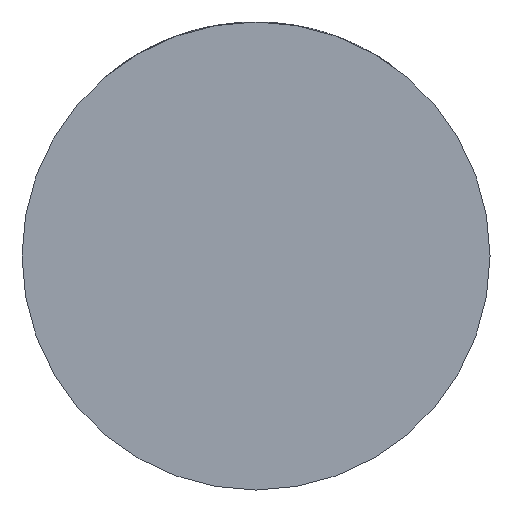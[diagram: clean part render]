
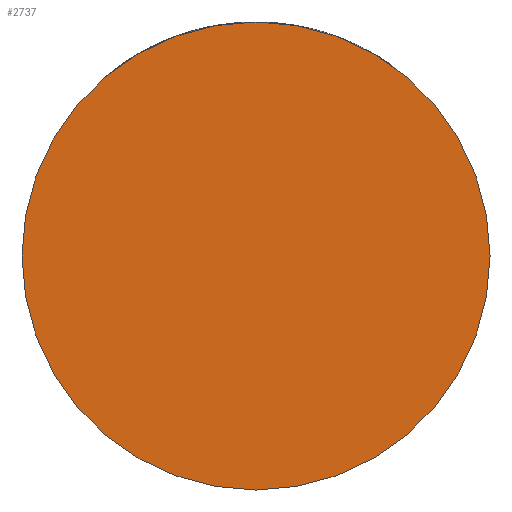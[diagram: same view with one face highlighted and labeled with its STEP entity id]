
A CAD part, front view. The second image highlights one B-rep face of the part: STEP entity #2737.
In plain terms, the highlighted planar face has unit normal (0, -1, 0).
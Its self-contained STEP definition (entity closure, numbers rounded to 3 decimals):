
#89 = DIRECTION ( 'NONE',  ( 1., 0., 0. ) ) ;
#203 = CIRCLE ( 'NONE', #3415, 39. ) ;
#502 = DIRECTION ( 'NONE',  ( 1., 0., 0. ) ) ;
#775 = AXIS2_PLACEMENT_3D ( 'NONE', #4341, #1196, #3957 ) ;
#838 = EDGE_LOOP ( 'NONE', ( #3903, #3999 ) ) ;
#1142 = AXIS2_PLACEMENT_3D ( 'NONE', #2586, #3616, #502 ) ;
#1196 = DIRECTION ( 'NONE',  ( 0., -1., 0. ) ) ;
#1952 = CIRCLE ( 'NONE', #1142, 39. ) ;
#2033 = VERTEX_POINT ( 'NONE', #2917 ) ;
#2071 = DIRECTION ( 'NONE',  ( 0., -1., 0. ) ) ;
#2138 = CARTESIAN_POINT ( 'NONE',  ( 0., -36., 0. ) ) ;
#2276 = VERTEX_POINT ( 'NONE', #4258 ) ;
#2463 = EDGE_CURVE ( 'NONE', #2276, #2033, #203, .T. ) ;
#2586 = CARTESIAN_POINT ( 'NONE',  ( 0., -36., 0. ) ) ;
#2737 = ADVANCED_FACE ( 'NONE', ( #2894 ), #2851, .T. ) ;
#2851 = PLANE ( 'NONE',  #775 ) ;
#2894 = FACE_OUTER_BOUND ( 'NONE', #838, .T. ) ;
#2917 = CARTESIAN_POINT ( 'NONE',  ( 39., -36., 0. ) ) ;
#3415 = AXIS2_PLACEMENT_3D ( 'NONE', #2138, #2071, #89 ) ;
#3616 = DIRECTION ( 'NONE',  ( 0., -1., 0. ) ) ;
#3903 = ORIENTED_EDGE ( 'NONE', *, *, #2463, .T. ) ;
#3957 = DIRECTION ( 'NONE',  ( 1., 0., 0. ) ) ;
#3999 = ORIENTED_EDGE ( 'NONE', *, *, #4201, .T. ) ;
#4201 = EDGE_CURVE ( 'NONE', #2033, #2276, #1952, .T. ) ;
#4258 = CARTESIAN_POINT ( 'NONE',  ( -39., -36., 0. ) ) ;
#4341 = CARTESIAN_POINT ( 'NONE',  ( 0., -36., 0. ) ) ;
